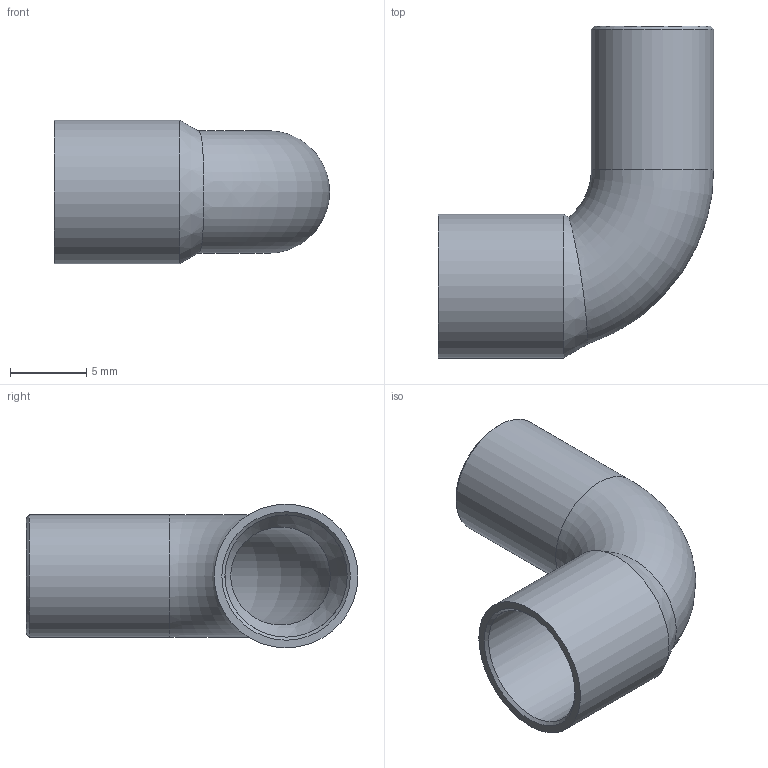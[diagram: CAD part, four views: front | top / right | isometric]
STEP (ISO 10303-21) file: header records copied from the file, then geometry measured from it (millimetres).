
FILE_DESCRIPTION((''),'2;1');
FILE_NAME('G:\SANHA-Ternat\Technik\Management\Bouwmaten + markeringen\z-maattekeningen 3D\5000\5092\150928(0)_gem.stp','2019-08-26T11:37:54',('vdvijverd'),(''),'Autodesk Inventor 2009','Autodesk Inventor 2009','');
FILE_SCHEMA(('AUTOMOTIVE_DESIGN { 1 0 10303 214 1 1 1 1 }'));
Length unit declared in the file: millimetre
Products named in the file (1): 150928(0)_gem
Bounding box: 18 x 21.7 x 9.4 mm (x, y, z)
Volume: 514.3 mm3; surface area: 1383.5 mm2
Topology: 1 solids, 1 shells, 12 faces, 25 edges, 15 vertices
Faces by surface type: cone 4, cylinder 4, plane 2, torus 2
Full cylindrical faces by diameter (mm): 6.4 x1, 8 x2, 9.4 x1
Entity records: 357 total; most frequent: CARTESIAN_POINT 121, DIRECTION 46, ORIENTED_EDGE 26, EDGE_LOOP 24, AXIS2_PLACEMENT_3D 23, VERTEX_POINT 13, EDGE_CURVE 13, FACE_OUTER_BOUND 12
